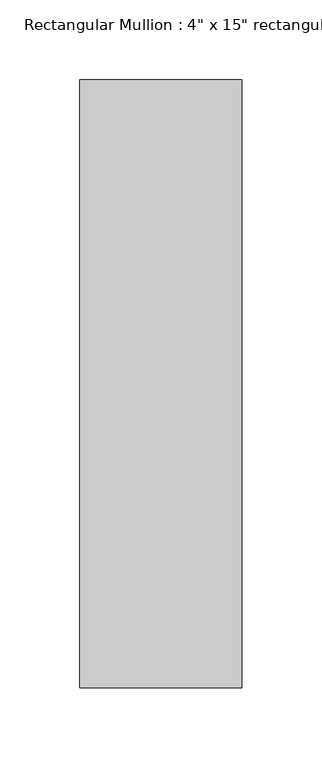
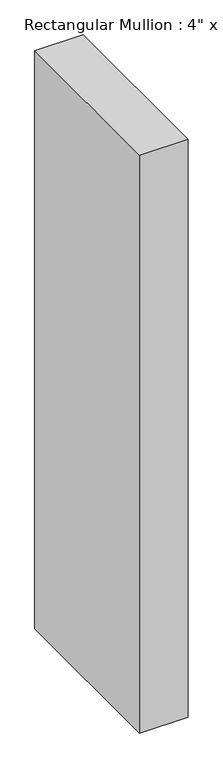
"""IFC4 building model written with IfcOpenShell, lengths in millimetres: member geometry."""

from ifc_helpers import new_model, si_unit, frame, origin, place, context, project, spatial, polyline, outline, extrude, source, transform, mapped, element, save


def member_6cab1703(model_context):
    return source(origin(), model_context, "Body", "SweptSolid", [
        extrude(outline(polyline([(0.0, 63.5), (0.0, -317.5), (-101.6, -317.5), (-101.6, 63.5), (0.0, 63.5)])), frame((0.0, 0.0, -1282.7), z_axis=(0.0, 0.0, 1.0), x_axis=(1.0, 0.0, 0.0)), (0.0, 0.0, 1.0), 1282.7),
    ])


if __name__ == "__main__":
    model = new_model("IFC4")
    model_context = context("Model", 3, world=origin())
    ifc_project = project(units=[si_unit("LENGTHUNIT", "METRE", prefix="MILLI")], contexts=[model_context])
    site = spatial("IfcSite", under=ifc_project)
    building = spatial("IfcBuilding", under=site)
    placement = place(None, origin())
    member_shape = member_6cab1703(model_context)
    element("IfcMember", 1, ObjectType="Rectangular Mullion : 4\" x 15\" rectangular", at=placement, inside=building, context=model_context, shape_type="MappedRepresentation", body=[
        mapped(member_shape, transform((0.0, 0.0, 0.0), x_axis=(1.0, 0.0, 0.0), y_axis=(0.0, 1.0, 0.0), z_axis=(0.0, 0.0, 1.0))),
    ])
    save(model, "model.ifc")
